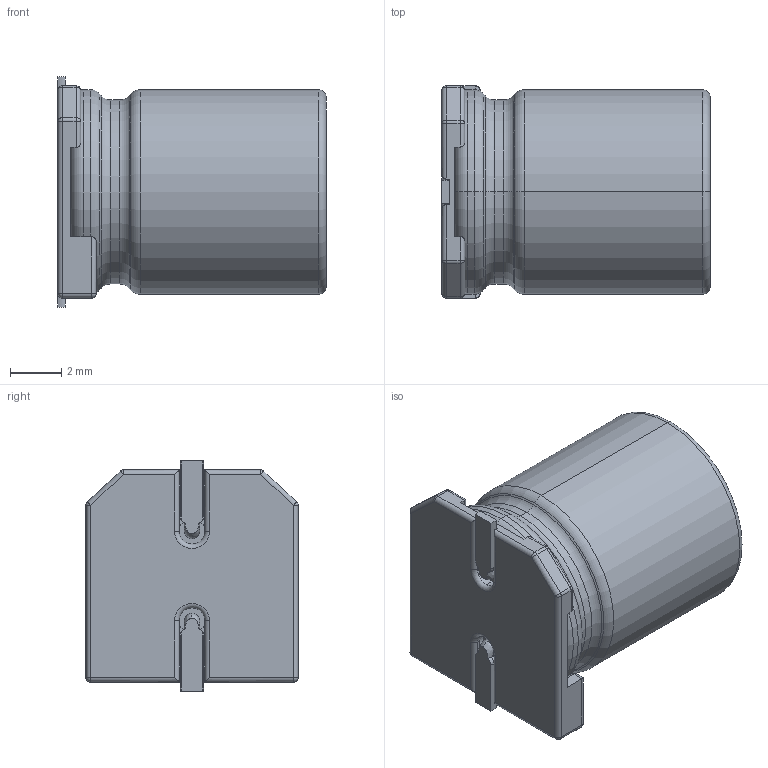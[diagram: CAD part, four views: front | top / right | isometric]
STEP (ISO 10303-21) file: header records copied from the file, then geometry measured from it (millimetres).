
FILE_DESCRIPTION((''),'2;1');
FILE_NAME('HYBRIDSMD8X105_ASM','2020-06-03T',('xy'),(''),'PRO/ENGINEER BY PARAMETRIC TECHNOLOGY CORPORATION, 2009380','PRO/ENGINEER BY PARAMETRIC TECHNOLOGY CORPORATION, 2009380','');
FILE_SCHEMA(('CONFIG_CONTROL_DESIGN'));
Length unit declared in the file: millimetre
Products named in the file (3): HYBRIDSMD8X105; ZB8A; HYBRIDSMD8X105_ASM
Assembly tree (2 placements, depth 2):
  HYBRIDSMD8X105_ASM
    HYBRIDSMD8X105
    ZB8A
Bounding box: 10.5 x 8.3 x 9 mm (x, y, z)
Volume: 526.4 mm3; surface area: 532.1 mm2
Topology: 2 solids, 2 shells, 519 faces, 1378 edges, 880 vertices
Faces by surface type: plane 393, cylinder 69, torus 21, sphere 20, bspline 12, cone 4
Entity records: 16294 total; most frequent: CARTESIAN_POINT 3310, ORIENTED_EDGE 2748, DIRECTION 2554, EDGE_CURVE 1374, VECTOR 1166, LINE 1166, VERTEX_POINT 880, AXIS2_PLACEMENT_3D 694
